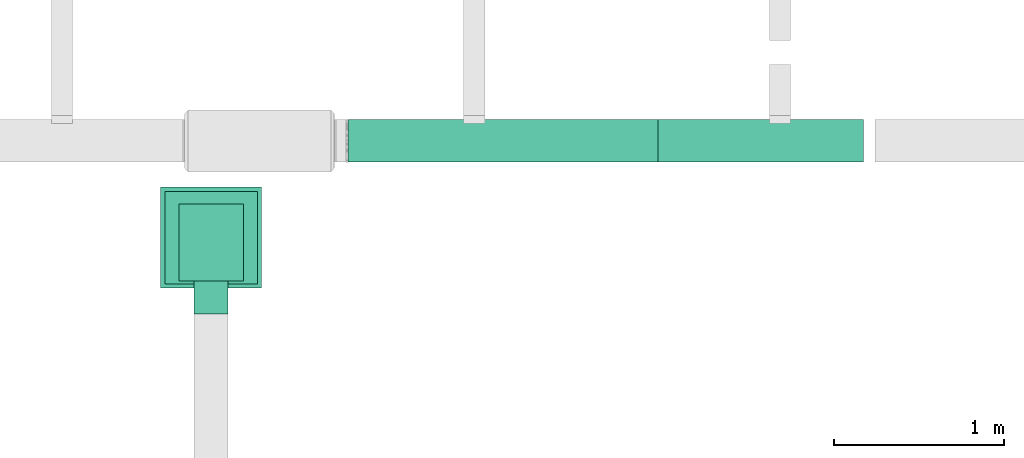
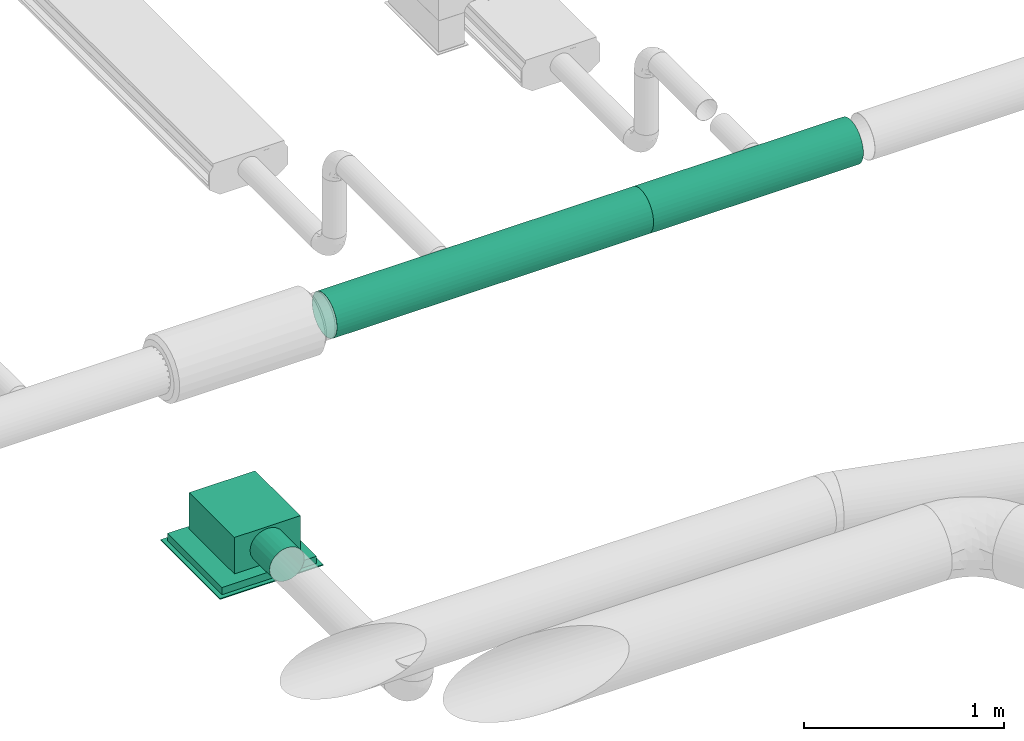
# One storey, part 8 of 36: 2 flow segments, 1 flow terminal.
"""IFC2X3 building model written with IfcOpenShell, lengths in millimetres."""

from ifc_helpers import new_model, entity, si_unit, converted_unit, derived_unit, direction, frame, origin_with_axes, origin_2d_with_axis, place, context, subcontext, project, spatial, hollow_circle, extrude, open_shell, surface_model, source, transform, mapped, type_object, element, save


model = new_model("IFC2X3")

# Units and contexts
model_context = context("Model", 3, precision=0.01, world=frame((0.0, 4.29681676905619e-09, 0.0)), true_north=direction((4.01073788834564e-13, 1.0)))
plan_context = context("Plan", 3, precision=0.01, world=frame((0.0, 4.29681676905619e-09, 0.0)), true_north=direction((4.01073788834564e-13, 1.0)))
body_context = subcontext(model_context, "Body", "Model", "MODEL_VIEW")
ifc_project = project(units=[converted_unit("PLANEANGLEUNIT", "DEGREE", entity("IfcPositiveLengthMeasure", 0.0174532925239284), si_unit("PLANEANGLEUNIT", "RADIAN"), dimensions=[0, 0, 0, 0, 0, 0, 0]), si_unit("AREAUNIT", "SQUARE_METRE"), si_unit("LENGTHUNIT", "METRE", prefix="MILLI"), si_unit("MASSUNIT", "GRAM", prefix="KILO"), si_unit("POWERUNIT", "WATT"), si_unit("PRESSUREUNIT", "PASCAL"), si_unit("FORCEUNIT", "NEWTON", prefix="KILO"), si_unit("ELECTRICCURRENTUNIT", "AMPERE"), si_unit("THERMODYNAMICTEMPERATUREUNIT", "DEGREE_CELSIUS"), si_unit("TIMEUNIT", "SECOND"), si_unit("VOLUMEUNIT", "CUBIC_METRE"), derived_unit("LINEARVELOCITYUNIT", [(si_unit("LENGTHUNIT", "METRE"), 1), (si_unit("TIMEUNIT", "SECOND"), -1)]), derived_unit("VOLUMETRICFLOWRATEUNIT", [(si_unit("VOLUMEUNIT", "CUBIC_METRE"), 1), (si_unit("TIMEUNIT", "SECOND"), -1)]), derived_unit("THERMALTRANSMITTANCEUNIT", [(si_unit("POWERUNIT", "WATT"), 1), (si_unit("THERMODYNAMICTEMPERATUREUNIT", "KELVIN"), -1), (si_unit("AREAUNIT", "SQUARE_METRE"), -1)])], contexts=[model_context, plan_context])

# Site, building, storey
site_placement = place(None, frame((0.0, -4.29681676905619e-09, 0.0), z_axis=(0.0, 0.0, 1.0), x_axis=(1.0, 0.0, 0.0)))
site = spatial("IfcSite", under=ifc_project, at=site_placement, CompositionType="ELEMENT")
building_placement = place(site_placement, frame((0.0, 4.29681676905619e-09, 0.0), z_axis=(0.0, 0.0, 1.0), x_axis=(1.0, 0.0, 0.0)))
building = spatial("IfcBuilding", under=site, at=building_placement, Name="mc-building", CompositionType="ELEMENT")
storey_placement = place(building_placement, frame((0.0, 0.0, 204000.0), z_axis=(0.0, 0.0, 1.0), x_axis=(1.0, 0.0, 0.0)))
storey = spatial("IfcBuildingStorey", under=building, at=storey_placement, Name="Nivå D", CompositionType="ELEMENT", Elevation=204000.0)

# Flow segments
duct_segment_type = type_object("IfcDuctSegmentType", Name="2 - Spiro kanaler, Forsinket stål", PredefinedType="RIGIDSEGMENT")
shared_shape_1 = source(origin_with_axes(), body_context, "Body", "SweptSolid", [
    extrude(hollow_circle(Radius=125.0, WallThickness=2.0, at=origin_2d_with_axis()), frame((0.0, 0.0, 0.0), z_axis=(1.0, 0.0, 0.0), x_axis=(0.0, 1.0, 0.0)), (0.0, 0.0, 1.0), 1210.0),
])
flow_segment_1_placement = place(storey_placement, frame((528326.21265, 416568.96658, 3200.0), z_axis=(0.0, 0.0, 1.0), x_axis=(1.0, 0.0, 0.0)))
element("IfcFlowSegment", 1, at=flow_segment_1_placement, inside=storey, type_object=duct_segment_type, Name="2 - Spiro kanaler, Forsinket stål", context=body_context, shape_type="MappedRepresentation", body=[
    mapped(shared_shape_1, transform((0.0, 0.0, 0.0), scale=1.0)),
])
shared_shape_2 = source(origin_with_axes(), body_context, "Body", "SweptSolid", [
    extrude(hollow_circle(Radius=125.0, WallThickness=2.0, at=origin_2d_with_axis()), frame((0.0, 0.0, 0.0), z_axis=(1.0, 0.0, 0.0), x_axis=(0.0, 1.0, 0.0)), (0.0, 0.0, 1.0), 2752.8),
])
flow_segment_2_placement = place(storey_placement, frame((526501.31828, 416568.96658, 3200.0), z_axis=(0.0, 0.0, 1.0), x_axis=(1.0, 0.0, 0.0)))
element("IfcFlowSegment", 2, at=flow_segment_2_placement, inside=storey, type_object=duct_segment_type, Name="2 - Spiro kanaler, Forsinket stål", context=body_context, shape_type="MappedRepresentation", body=[
    mapped(shared_shape_2, transform((0.0, 0.0, 0.0), scale=1.0)),
])

# Flow terminal
air_terminal_type = type_object("IfcAirTerminalType", Name="Orion-LOV-TA-250+Luna-200-250", PredefinedType="NOTDEFINED")
shared_shape_3 = source(origin_with_axes(), body_context, "Body", "SurfaceModel", [
    surface_model("IfcShellBasedSurfaceModel", [(-253.99999, 189.99999, 309.0), (-253.99999, -189.99999, 309.0), (198.0, -189.99999, 309.0), (198.0, 189.99999, 309.0), (198.0, 189.99999, 87.0), (198.0, -189.99999, 87.0), (-253.99999, -189.99999, 87.0), (-253.99999, 189.99999, 87.0), (-272.49999, 272.49999, 44.0), (-272.49999, -272.49999, 44.0), (272.49999, -272.49999, 44.0), (272.49999, 272.49999, 44.0), (272.49999, 272.49999, 0.0), (272.49999, -272.49999, 0.0), (-272.49999, -272.49999, 0.0), (-272.49999, 272.49999, 0.0), (-297.49999, 297.49999, 0.0), (-297.49999, -297.49999, 0.0), (297.49999, -297.49999, 0.0), (297.49999, 297.49999, 0.0), (297.49999, 297.49999, -6.0), (297.49999, -297.49999, -6.0), (-297.49999, -297.49999, -6.0), (-297.49999, 297.49999, -6.0), (-253.99999, 50.0, 111.39746), (-253.99999, 70.71068, 127.28932), (-253.99999, 49.9, 111.57066), (-253.99999, 25.83014, 101.6006), (-253.99999, 0.0, 98.2), (-253.99999, 25.8819, 101.40742), (-253.99999, 0.0, 98.0), (-253.99999, 70.56926, 127.43074), (-253.99999, 96.59259, 172.11809), (-253.99999, 99.8, 198.0), (-253.99999, 96.39939, 172.16985), (-253.99999, 100.0, 198.0), (-253.99999, 86.60254, 148.0), (-253.99999, 86.42934, 148.1), (-253.99999, -25.83014, 101.6006), (-253.99999, -25.8819, 101.40742), (-253.99999, -49.9, 111.57066), (-253.99999, -70.71068, 127.28932), (-253.99999, -50.0, 111.39746), (-253.99999, -70.56926, 127.43074), (-253.99999, -86.42934, 148.1), (-253.99999, -86.60254, 148.0), (-253.99999, -96.39939, 172.16985), (-253.99999, -96.59259, 172.11809), (-253.99999, -99.8, 198.0), (-253.99999, -100.0, 198.0), (-253.99999, 96.59259, 223.8819), (-253.99999, 96.39939, 223.83014), (-253.99999, 86.42934, 247.9), (-253.99999, 86.60254, 248.0), (-253.99999, 70.56926, 268.56925), (-253.99999, 70.71068, 268.71067), (-253.99999, 50.0, 284.60254), (-253.99999, 49.9, 284.42933), (-253.99999, 25.83014, 294.3994), (-253.99999, 25.8819, 294.59257), (-253.99999, 0.0, 297.79999), (-253.99999, 0.0, 298.0), (-253.99999, -86.60254, 248.0), (-253.99999, -86.42934, 247.9), (-253.99999, -70.71068, 268.71067), (-253.99999, -70.56926, 268.56925), (-253.99999, -96.59259, 223.8819), (-253.99999, -96.39939, 223.83014), (-253.99999, -25.83014, 294.3994), (-253.99999, -25.8819, 294.59257), (-253.99999, -49.9, 284.42933), (-253.99999, -50.0, 284.60254), (-448.99999, 50.0, 284.60254), (-448.99999, 70.71068, 268.71067), (-448.99999, 49.9, 284.42933), (-448.99999, 25.83014, 294.3994), (-448.99999, 0.0, 297.79999), (-448.99999, 25.8819, 294.59257), (-448.99999, 0.0, 298.0), (-448.99999, 70.56926, 268.56925), (-448.99999, 96.59259, 223.8819), (-448.99999, 99.8, 198.0), (-448.99999, 96.39939, 223.83014), (-448.99999, 100.0, 198.0), (-448.99999, 86.60254, 248.0), (-448.99999, 86.42934, 247.9), (-448.99999, -25.83014, 294.3994), (-448.99999, -25.8819, 294.59257), (-448.99999, -49.9, 284.42933), (-448.99999, -70.71068, 268.71067), (-448.99999, -50.0, 284.60254), (-448.99999, -70.56926, 268.56925), (-448.99999, -86.42934, 247.9), (-448.99999, -86.60254, 248.0), (-448.99999, -96.39939, 223.83014), (-448.99999, -96.59259, 223.8819), (-448.99999, -99.8, 198.0), (-448.99999, -100.0, 198.0), (-448.99999, 96.59259, 172.11809), (-448.99999, 96.39939, 172.16985), (-448.99999, 86.42934, 148.1), (-448.99999, 86.60254, 148.0), (-448.99999, 70.56926, 127.43074), (-448.99999, 70.71068, 127.28932), (-448.99999, 50.0, 111.39746), (-448.99999, 49.9, 111.57066), (-448.99999, 25.83014, 101.6006), (-448.99999, 25.8819, 101.40742), (-448.99999, 0.0, 98.2), (-448.99999, 0.0, 98.0), (-448.99999, -86.60254, 148.0), (-448.99999, -86.42934, 148.1), (-448.99999, -70.71068, 127.28932), (-448.99999, -70.56926, 127.43074), (-448.99999, -96.59259, 172.11809), (-448.99999, -96.39939, 172.16985), (-448.99999, -25.83014, 101.6006), (-448.99999, -25.8819, 101.40742), (-448.99999, -49.9, 111.57066), (-448.99999, -50.0, 111.39746), (63.0, -109.1192, 87.0), (89.09545, -89.09545, 87.0), (62.9, -108.94599, 87.0), (32.55944, -121.51347, 87.0), (0.0, -125.8, 87.0), (32.6112, -121.70665, 87.0), (0.0, -126.0, 87.0), (88.95404, -88.95404, 87.0), (121.70665, -32.6112, 87.0), (125.8, 0.0, 87.0), (121.51347, -32.55944, 87.0), (126.0, 0.0, 87.0), (109.1192, -63.0, 87.0), (108.94599, -62.9, 87.0), (-32.55944, -121.51347, 87.0), (-32.6112, -121.70665, 87.0), (-62.9, -108.94599, 87.0), (-89.09545, -89.09545, 87.0), (-63.0, -109.1192, 87.0), (-88.95404, -88.95404, 87.0), (-108.94599, -62.9, 87.0), (-109.1192, -63.0, 87.0), (-121.51347, -32.55944, 87.0), (-121.70665, -32.6112, 87.0), (-125.8, 0.0, 87.0), (-126.0, 0.0, 87.0), (121.70665, 32.6112, 87.0), (121.51347, 32.55944, 87.0), (108.94599, 62.9, 87.0), (109.1192, 63.0, 87.0), (88.95404, 88.95404, 87.0), (89.09545, 89.09545, 87.0), (63.0, 109.1192, 87.0), (62.9, 108.94599, 87.0), (32.55944, 121.51347, 87.0), (32.6112, 121.70665, 87.0), (0.0, 125.8, 87.0), (0.0, 126.0, 87.0), (-109.1192, 63.0, 87.0), (-108.94599, 62.9, 87.0), (-89.09545, 89.09545, 87.0), (-88.95404, 88.95404, 87.0), (-121.70665, 32.6112, 87.0), (-121.51347, 32.55944, 87.0), (-32.55944, 121.51347, 87.0), (-32.6112, 121.70665, 87.0), (-62.9, 108.94599, 87.0), (-63.0, 109.1192, 87.0), (63.0, 109.1192, 44.0), (89.09545, 89.09545, 44.0), (62.9, 108.94599, 44.0), (32.55944, 121.51347, 44.0), (0.0, 125.8, 44.0), (32.6112, 121.70665, 44.0), (0.0, 126.0, 44.0), (88.95404, 88.95404, 44.0), (121.70665, 32.6112, 44.0), (125.8, 0.0, 44.0), (121.51347, 32.55944, 44.0), (126.0, 0.0, 44.0), (109.1192, 63.0, 44.0), (108.94599, 62.9, 44.0), (-32.55944, 121.51347, 44.0), (-32.6112, 121.70665, 44.0), (-62.9, 108.94599, 44.0), (-89.09545, 89.09545, 44.0), (-63.0, 109.1192, 44.0), (-88.95404, 88.95404, 44.0), (-108.94599, 62.9, 44.0), (-109.1192, 63.0, 44.0), (-121.51347, 32.55944, 44.0), (-121.70665, 32.6112, 44.0), (-125.8, 0.0, 44.0), (-126.0, 0.0, 44.0), (121.70665, -32.6112, 44.0), (121.51347, -32.55944, 44.0), (108.94599, -62.9, 44.0), (109.1192, -63.0, 44.0), (88.95404, -88.95404, 44.0), (89.09545, -89.09545, 44.0), (63.0, -109.1192, 44.0), (62.9, -108.94599, 44.0), (32.55944, -121.51347, 44.0), (32.6112, -121.70665, 44.0), (0.0, -125.8, 44.0), (0.0, -126.0, 44.0), (-109.1192, -63.0, 44.0), (-108.94599, -62.9, 44.0), (-89.09545, -89.09545, 44.0), (-88.95404, -88.95404, 44.0), (-121.70665, -32.6112, 44.0), (-121.51347, -32.55944, 44.0), (-32.55944, -121.51347, 44.0), (-32.6112, -121.70665, 44.0), (-62.9, -108.94599, 44.0), (-63.0, -109.1192, 44.0)], [open_shell([[[0, 1, 2]], [[2, 3, 0]], [[4, 5, 6]], [[6, 7, 4]], [[2, 1, 5]], [[6, 5, 1]], [[3, 2, 4]], [[5, 4, 2]], [[0, 3, 7]], [[4, 7, 3]], [[1, 0, 6]], [[7, 6, 0]], [[8, 9, 10]], [[10, 11, 8]], [[12, 13, 14]], [[14, 15, 12]], [[10, 9, 13]], [[14, 13, 9]], [[11, 10, 12]], [[13, 12, 10]], [[8, 11, 15]], [[12, 15, 11]], [[9, 8, 14]], [[15, 14, 8]], [[16, 17, 18]], [[18, 19, 16]], [[20, 21, 22]], [[22, 23, 20]], [[18, 17, 21]], [[22, 21, 17]], [[19, 18, 20]], [[21, 20, 18]], [[16, 19, 23]], [[20, 23, 19]], [[17, 16, 22]], [[23, 22, 16]], [[24, 25, 26]], [[24, 26, 27]], [[28, 29, 27]], [[29, 28, 30]], [[27, 29, 24]], [[26, 25, 31]], [[32, 33, 34]], [[33, 32, 35]], [[32, 34, 36]], [[31, 36, 37]], [[36, 31, 25]], [[37, 36, 34]], [[30, 38, 39]], [[39, 38, 40]], [[41, 42, 43]], [[40, 42, 39]], [[40, 43, 42]], [[30, 28, 38]], [[44, 45, 41]], [[45, 44, 46]], [[44, 41, 43]], [[47, 46, 48]], [[46, 47, 45]], [[47, 48, 49]], [[35, 50, 51]], [[51, 50, 52]], [[52, 53, 54]], [[53, 52, 50]], [[54, 53, 55]], [[55, 56, 57]], [[57, 56, 58]], [[58, 59, 60]], [[59, 58, 56]], [[60, 59, 61]], [[57, 54, 55]], [[62, 63, 64]], [[64, 63, 65]], [[63, 62, 66]], [[49, 67, 66]], [[66, 67, 63]], [[49, 48, 67]], [[68, 61, 69]], [[68, 69, 70]], [[65, 71, 64]], [[65, 70, 71]], [[71, 70, 69]], [[60, 61, 68]], [[51, 33, 35]], [[72, 73, 74]], [[72, 74, 75]], [[76, 77, 75]], [[77, 76, 78]], [[75, 77, 72]], [[74, 73, 79]], [[80, 81, 82]], [[81, 80, 83]], [[80, 82, 84]], [[79, 84, 85]], [[84, 79, 73]], [[85, 84, 82]], [[78, 86, 87]], [[87, 86, 88]], [[89, 90, 91]], [[88, 90, 87]], [[88, 91, 90]], [[78, 76, 86]], [[92, 93, 89]], [[93, 92, 94]], [[92, 89, 91]], [[95, 94, 96]], [[94, 95, 93]], [[95, 96, 97]], [[83, 98, 99]], [[99, 98, 100]], [[100, 101, 102]], [[101, 100, 98]], [[102, 101, 103]], [[103, 104, 105]], [[105, 104, 106]], [[106, 107, 108]], [[107, 106, 104]], [[108, 107, 109]], [[105, 102, 103]], [[110, 111, 112]], [[112, 111, 113]], [[111, 110, 114]], [[97, 115, 114]], [[114, 115, 111]], [[97, 96, 115]], [[116, 109, 117]], [[116, 117, 118]], [[113, 119, 112]], [[113, 118, 119]], [[119, 118, 117]], [[108, 109, 116]], [[99, 81, 83]], [[47, 114, 110]], [[112, 45, 110]], [[42, 119, 117]], [[112, 119, 41]], [[39, 117, 109]], [[114, 49, 97]], [[114, 47, 49]], [[110, 45, 47]], [[112, 41, 45]], [[42, 41, 119]], [[117, 39, 42]], [[109, 30, 39]], [[29, 107, 104]], [[103, 24, 104]], [[36, 101, 98]], [[103, 101, 25]], [[32, 98, 83]], [[107, 29, 30]], [[104, 24, 29]], [[103, 25, 24]], [[101, 36, 25]], [[32, 36, 98]], [[83, 35, 32]], [[107, 30, 109]], [[83, 80, 50]], [[56, 72, 77]], [[72, 55, 73]], [[59, 77, 78]], [[83, 50, 35]], [[50, 80, 84]], [[50, 84, 53]], [[53, 84, 55]], [[55, 84, 73]], [[55, 72, 56]], [[77, 59, 56]], [[78, 61, 59]], [[69, 87, 90]], [[89, 71, 90]], [[62, 93, 95]], [[89, 93, 64]], [[66, 95, 97]], [[87, 69, 61]], [[90, 71, 69]], [[89, 64, 71]], [[93, 62, 64]], [[66, 62, 95]], [[97, 49, 66]], [[87, 61, 78]], [[111, 115, 46]], [[111, 44, 113]], [[116, 118, 40]], [[43, 118, 113]], [[108, 116, 38]], [[96, 48, 115]], [[48, 46, 115]], [[46, 44, 111]], [[44, 43, 113]], [[118, 43, 40]], [[40, 38, 116]], [[38, 28, 108]], [[105, 106, 27]], [[105, 26, 102]], [[99, 100, 37]], [[31, 100, 102]], [[81, 99, 34]], [[28, 27, 106]], [[27, 26, 105]], [[26, 31, 102]], [[31, 37, 100]], [[99, 37, 34]], [[34, 33, 81]], [[108, 28, 106]], [[51, 82, 81]], [[75, 74, 57]], [[79, 54, 74]], [[76, 75, 58]], [[33, 51, 81]], [[85, 82, 51]], [[52, 85, 51]], [[54, 85, 52]], [[79, 85, 54]], [[57, 74, 54]], [[57, 58, 75]], [[58, 60, 76]], [[88, 86, 68]], [[88, 70, 91]], [[94, 92, 63]], [[65, 92, 91]], [[96, 94, 67]], [[60, 68, 86]], [[68, 70, 88]], [[70, 65, 91]], [[65, 63, 92]], [[94, 63, 67]], [[67, 48, 96]], [[76, 60, 86]], [[120, 121, 122]], [[120, 122, 123]], [[124, 125, 123]], [[125, 124, 126]], [[123, 125, 120]], [[122, 121, 127]], [[128, 129, 130]], [[129, 128, 131]], [[128, 130, 132]], [[127, 132, 133]], [[132, 127, 121]], [[133, 132, 130]], [[126, 134, 135]], [[135, 134, 136]], [[137, 138, 139]], [[136, 138, 135]], [[136, 139, 138]], [[126, 124, 134]], [[140, 141, 137]], [[141, 140, 142]], [[140, 137, 139]], [[143, 142, 144]], [[142, 143, 141]], [[143, 144, 145]], [[131, 146, 147]], [[147, 146, 148]], [[148, 149, 150]], [[149, 148, 146]], [[150, 149, 151]], [[151, 152, 153]], [[153, 152, 154]], [[154, 155, 156]], [[155, 154, 152]], [[156, 155, 157]], [[153, 150, 151]], [[158, 159, 160]], [[160, 159, 161]], [[159, 158, 162]], [[145, 163, 162]], [[162, 163, 159]], [[145, 144, 163]], [[164, 157, 165]], [[164, 165, 166]], [[161, 167, 160]], [[161, 166, 167]], [[167, 166, 165]], [[156, 157, 164]], [[147, 129, 131]], [[168, 169, 170]], [[168, 170, 171]], [[172, 173, 171]], [[173, 172, 174]], [[171, 173, 168]], [[170, 169, 175]], [[176, 177, 178]], [[177, 176, 179]], [[176, 178, 180]], [[175, 180, 181]], [[180, 175, 169]], [[181, 180, 178]], [[174, 182, 183]], [[183, 182, 184]], [[185, 186, 187]], [[184, 186, 183]], [[184, 187, 186]], [[174, 172, 182]], [[188, 189, 185]], [[189, 188, 190]], [[188, 185, 187]], [[191, 190, 192]], [[190, 191, 189]], [[191, 192, 193]], [[179, 194, 195]], [[195, 194, 196]], [[196, 197, 198]], [[197, 196, 194]], [[198, 197, 199]], [[199, 200, 201]], [[201, 200, 202]], [[202, 203, 204]], [[203, 202, 200]], [[204, 203, 205]], [[201, 198, 199]], [[206, 207, 208]], [[208, 207, 209]], [[207, 206, 210]], [[193, 211, 210]], [[210, 211, 207]], [[193, 192, 211]], [[212, 205, 213]], [[212, 213, 214]], [[209, 215, 208]], [[209, 214, 215]], [[215, 214, 213]], [[204, 205, 212]], [[195, 177, 179]], [[210, 143, 193]], [[206, 141, 210]], [[138, 208, 215]], [[206, 208, 137]], [[135, 215, 213]], [[210, 141, 143]], [[143, 145, 193]], [[135, 138, 215]], [[137, 208, 138]], [[137, 141, 206]], [[126, 135, 213]], [[213, 205, 126]], [[203, 125, 205]], [[200, 120, 203]], [[132, 199, 197]], [[200, 199, 121]], [[128, 197, 194]], [[200, 121, 120]], [[120, 125, 203]], [[131, 128, 194]], [[132, 197, 128]], [[132, 121, 199]], [[179, 131, 194]], [[205, 125, 126]], [[176, 146, 179]], [[180, 149, 176]], [[152, 169, 168]], [[180, 169, 151]], [[155, 168, 173]], [[176, 149, 146]], [[146, 131, 179]], [[155, 152, 168]], [[151, 169, 152]], [[151, 149, 180]], [[157, 155, 173]], [[173, 174, 157]], [[165, 174, 183]], [[186, 167, 183]], [[158, 189, 191]], [[162, 191, 193]], [[186, 160, 167]], [[167, 165, 183]], [[185, 158, 160]], [[185, 189, 158]], [[158, 191, 162]], [[193, 145, 162]], [[185, 160, 186]], [[174, 165, 157]], [[192, 142, 211]], [[211, 140, 207]], [[214, 209, 136]], [[139, 209, 207]], [[212, 214, 134]], [[142, 140, 211]], [[192, 144, 142]], [[214, 136, 134]], [[136, 209, 139]], [[207, 140, 139]], [[212, 134, 124]], [[124, 204, 212]], [[204, 123, 202]], [[202, 122, 201]], [[196, 198, 133]], [[127, 198, 201]], [[195, 196, 130]], [[122, 127, 201]], [[202, 123, 122]], [[195, 130, 129]], [[130, 196, 133]], [[198, 127, 133]], [[195, 129, 177]], [[124, 123, 204]], [[177, 147, 178]], [[178, 148, 181]], [[170, 175, 153]], [[150, 175, 181]], [[171, 170, 154]], [[147, 148, 178]], [[177, 129, 147]], [[170, 153, 154]], [[153, 175, 150]], [[181, 148, 150]], [[171, 154, 156]], [[156, 172, 171]], [[182, 172, 164]], [[182, 166, 184]], [[190, 188, 159]], [[192, 190, 163]], [[166, 161, 184]], [[182, 164, 166]], [[161, 159, 187]], [[159, 188, 187]], [[163, 190, 159]], [[163, 144, 192]], [[184, 161, 187]], [[156, 164, 172]]])]),
])
flow_terminal_placement = place(storey_placement, frame((525696.54715, 415999.37871, 2381.98783999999), z_axis=(0.0, 0.0, 1.0), x_axis=(0.0, 1.0, 0.0)))
element("IfcFlowTerminal", 3, at=flow_terminal_placement, inside=storey, type_object=air_terminal_type, Name="Orion-LOV-TA-250+Luna-200-250", context=body_context, shape_type="MappedRepresentation", body=[
    mapped(shared_shape_3, transform((0.0, 0.0, 0.0), scale=1.0)),
])

save(model, "model.ifc")
